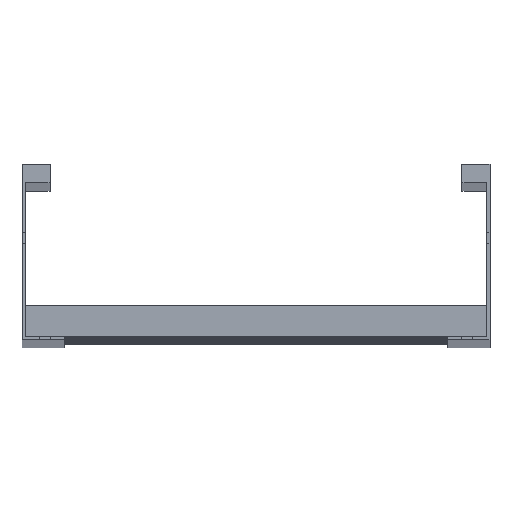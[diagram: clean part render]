
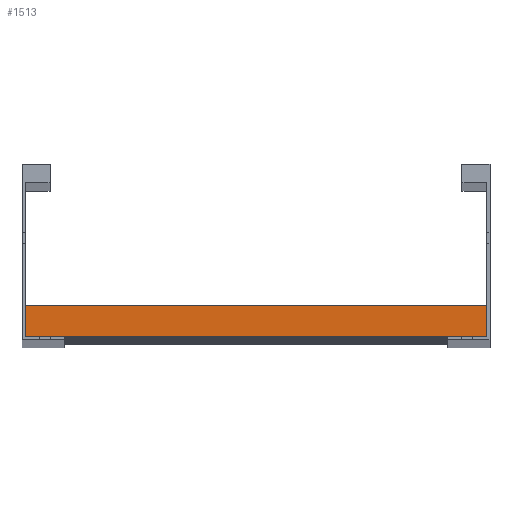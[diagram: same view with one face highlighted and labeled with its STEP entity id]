
A CAD part, top view. The second image highlights one B-rep face of the part: STEP entity #1513.
In plain terms, the highlighted planar face has unit normal (0, 0, 1).
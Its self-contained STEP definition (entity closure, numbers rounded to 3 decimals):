
#70 = LINE ( 'NONE', #460, #182 ) ;
#78 = CARTESIAN_POINT ( 'NONE',  ( -148., 20., 20.25 ) ) ;
#109 = VECTOR ( 'NONE', #1642, 1000. ) ;
#134 = VERTEX_POINT ( 'NONE', #1210 ) ;
#139 = EDGE_LOOP ( 'NONE', ( #1220, #796, #1224, #729 ) ) ;
#182 = VECTOR ( 'NONE', #1140, 1000. ) ;
#409 = AXIS2_PLACEMENT_3D ( 'NONE', #1704, #1036, #514 ) ;
#460 = CARTESIAN_POINT ( 'NONE',  ( 148., 20., 20.25 ) ) ;
#505 = FACE_OUTER_BOUND ( 'NONE', #139, .T. ) ;
#514 = DIRECTION ( 'NONE',  ( 0., 1., 0. ) ) ;
#539 = CARTESIAN_POINT ( 'NONE',  ( 148., 20., 20.25 ) ) ;
#585 = VECTOR ( 'NONE', #1480, 1000. ) ;
#645 = CARTESIAN_POINT ( 'NONE',  ( -148., 20., 20.25 ) ) ;
#729 = ORIENTED_EDGE ( 'NONE', *, *, #1656, .T. ) ;
#759 = DIRECTION ( 'NONE',  ( -1., 0., 0. ) ) ;
#796 = ORIENTED_EDGE ( 'NONE', *, *, #1541, .F. ) ;
#882 = CARTESIAN_POINT ( 'NONE',  ( 148., 0., 20.25 ) ) ;
#965 = VECTOR ( 'NONE', #759, 1000. ) ;
#1010 = CARTESIAN_POINT ( 'NONE',  ( 148., 20., 20.25 ) ) ;
#1036 = DIRECTION ( 'NONE',  ( 0., 0., -1. ) ) ;
#1087 = VERTEX_POINT ( 'NONE', #1088 ) ;
#1088 = CARTESIAN_POINT ( 'NONE',  ( -148., 0., 20.25 ) ) ;
#1091 = LINE ( 'NONE', #539, #585 ) ;
#1111 = LINE ( 'NONE', #78, #109 ) ;
#1140 = DIRECTION ( 'NONE',  ( 0., -1., 0. ) ) ;
#1170 = PLANE ( 'NONE',  #409 ) ;
#1210 = CARTESIAN_POINT ( 'NONE',  ( 148., 0., 20.25 ) ) ;
#1220 = ORIENTED_EDGE ( 'NONE', *, *, #1346, .T. ) ;
#1224 = ORIENTED_EDGE ( 'NONE', *, *, #1347, .F. ) ;
#1332 = VERTEX_POINT ( 'NONE', #1010 ) ;
#1346 = EDGE_CURVE ( 'NONE', #1438, #1087, #1111, .T. ) ;
#1347 = EDGE_CURVE ( 'NONE', #1332, #134, #70, .T. ) ;
#1438 = VERTEX_POINT ( 'NONE', #645 ) ;
#1480 = DIRECTION ( 'NONE',  ( -1., 0., 0. ) ) ;
#1513 = ADVANCED_FACE ( 'NONE', ( #505 ), #1170, .F. ) ;
#1541 = EDGE_CURVE ( 'NONE', #134, #1087, #1545, .T. ) ;
#1545 = LINE ( 'NONE', #882, #965 ) ;
#1642 = DIRECTION ( 'NONE',  ( 0., -1., 0. ) ) ;
#1656 = EDGE_CURVE ( 'NONE', #1332, #1438, #1091, .T. ) ;
#1704 = CARTESIAN_POINT ( 'NONE',  ( 148., 20., 20.25 ) ) ;
